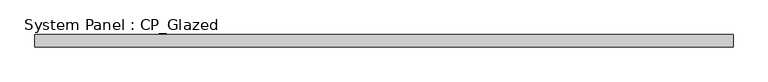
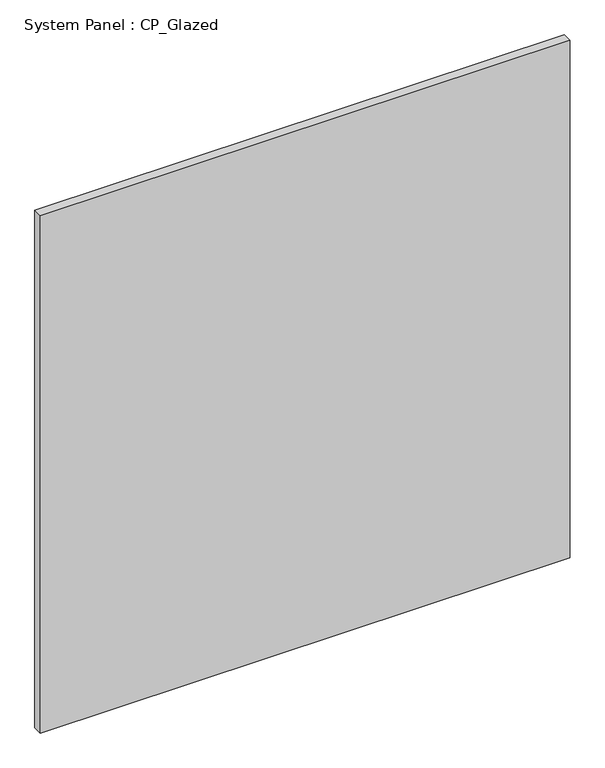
"""IFC4 building model written with IfcOpenShell, lengths in millimetres: plate geometry, System Panel : CP_Glazed."""

from ifc_helpers import new_model, si_unit, origin, origin_with_axes, place, context, project, spatial, polyline, outline, extrude, source, transform, mapped, element, save


def system_panel_cp_glazed_df258ef0(model_context):
    return source(origin(), model_context, "Body", "SweptSolid", [
        extrude(outline(polyline([(716.8696429, 19.05), (-716.8696429, 19.05), (-716.8696429, 44.45), (716.8696429, 44.45), (716.8696429, 19.05)])), origin_with_axes(), (0.0, 0.0, 1.0), 1479.55),
    ])


if __name__ == "__main__":
    model = new_model("IFC4")
    model_context = context("Model", 3, world=origin())
    ifc_project = project(units=[si_unit("LENGTHUNIT", "METRE", prefix="MILLI")], contexts=[model_context])
    site = spatial("IfcSite", under=ifc_project)
    building = spatial("IfcBuilding", under=site)
    placement = place(None, origin())
    system_panel_cp_glazed_shape = system_panel_cp_glazed_df258ef0(model_context)
    element("IfcPlate", 1, ObjectType="System Panel : CP_Glazed", at=placement, inside=building, context=model_context, shape_type="MappedRepresentation", body=[
        mapped(system_panel_cp_glazed_shape, transform((0.0, 0.0, 0.0), x_axis=(1.0, 0.0, 0.0), y_axis=(0.0, 1.0, 0.0), z_axis=(0.0, 0.0, 1.0))),
    ])
    save(model, "model.ifc")
